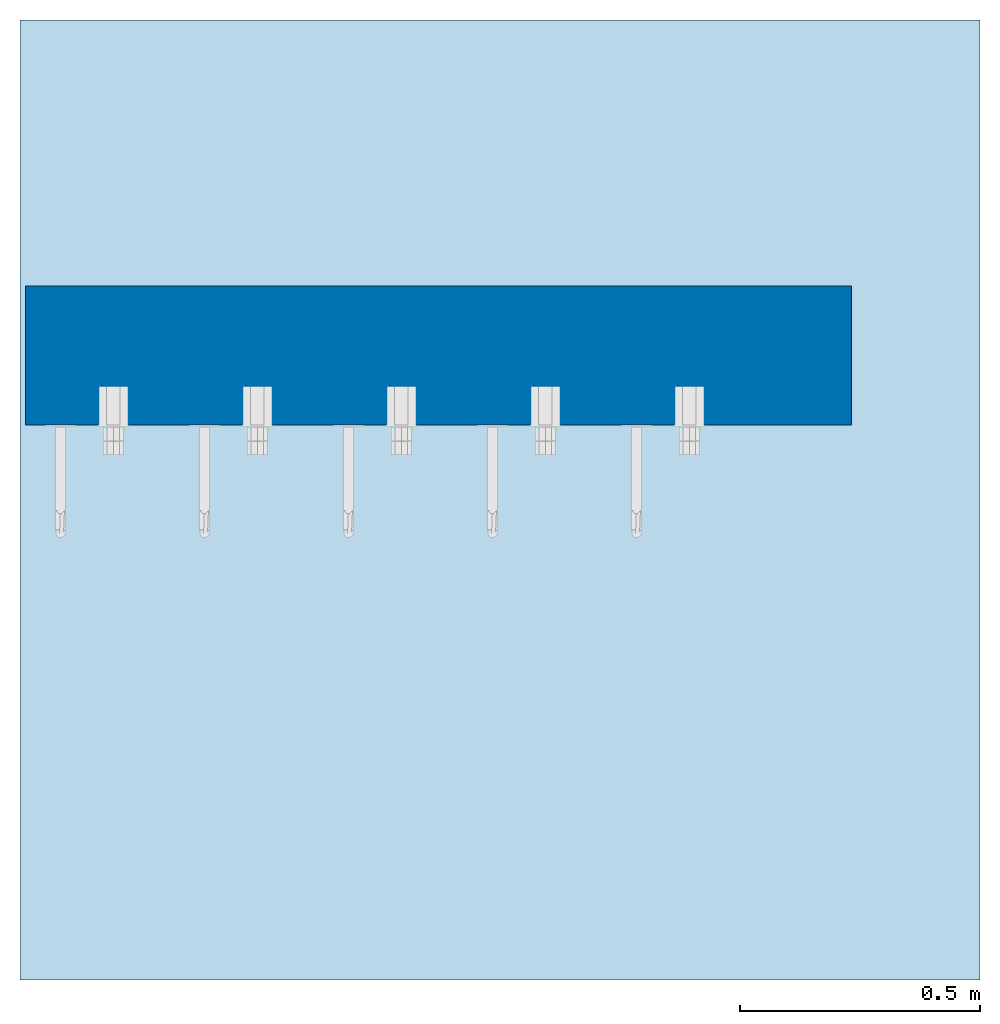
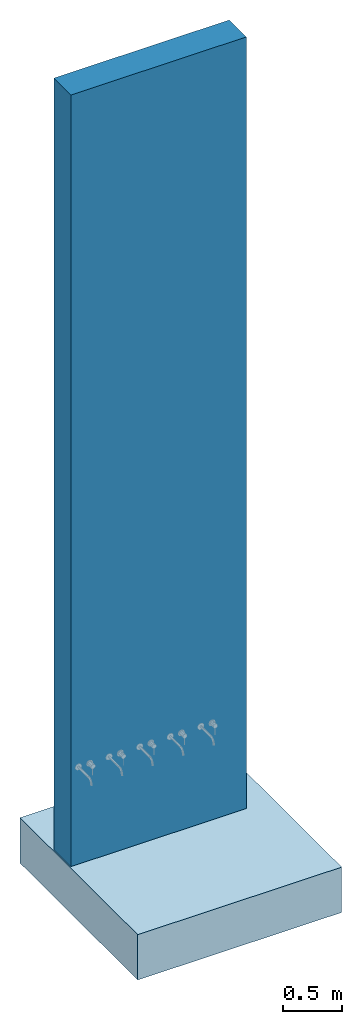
# One storey, incomplete: 1 slab, 1 wall.
"""IFC2X3 building model written with IfcOpenShell, lengths in millimetres."""

from ifc_helpers import new_model, entity, si_unit, converted_unit, derived_unit, direction, frame, frame_2d, origin, origin_2d_with_axis, place, context, subcontext, project, spatial, rectangle, extrude, material, layer, layer_set, layer_usage, type_object, element, save


model = new_model("IFC2X3")

# Units and contexts
model_context = context("Model", 3, precision=0.01, world=origin(), true_north=direction((6.12303176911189e-17, 1.0)))
body_context = subcontext(model_context, "Body", "Model", "MODEL_VIEW")
ifc_project = project(units=[si_unit("LENGTHUNIT", "METRE", prefix="MILLI"), si_unit("AREAUNIT", "SQUARE_METRE"), si_unit("VOLUMEUNIT", "CUBIC_METRE"), converted_unit("PLANEANGLEUNIT", "DEGREE", entity("IfcRatioMeasure", 0.0174532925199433), si_unit("PLANEANGLEUNIT", "RADIAN"), dimensions=[0, 0, 0, 0, 0, 0, 0]), si_unit("MASSUNIT", "GRAM", prefix="KILO"), derived_unit("MASSDENSITYUNIT", [(si_unit("MASSUNIT", "GRAM", prefix="KILO"), 1), (si_unit("LENGTHUNIT", "METRE"), -3)]), si_unit("TIMEUNIT", "SECOND"), si_unit("FREQUENCYUNIT", "HERTZ"), si_unit("THERMODYNAMICTEMPERATUREUNIT", "DEGREE_CELSIUS"), derived_unit("THERMALTRANSMITTANCEUNIT", [(si_unit("MASSUNIT", "GRAM", prefix="KILO"), 1), (si_unit("THERMODYNAMICTEMPERATUREUNIT", "KELVIN"), -1), (si_unit("TIMEUNIT", "SECOND"), -3)]), derived_unit("VOLUMETRICFLOWRATEUNIT", [(si_unit("LENGTHUNIT", "METRE"), 3), (si_unit("TIMEUNIT", "SECOND"), -1)]), si_unit("ELECTRICCURRENTUNIT", "AMPERE"), si_unit("ELECTRICVOLTAGEUNIT", "VOLT"), si_unit("POWERUNIT", "WATT"), si_unit("FORCEUNIT", "NEWTON", prefix="KILO"), si_unit("ILLUMINANCEUNIT", "LUX"), si_unit("LUMINOUSFLUXUNIT", "LUMEN"), si_unit("LUMINOUSINTENSITYUNIT", "CANDELA"), derived_unit("USERDEFINED", [(si_unit("MASSUNIT", "GRAM", prefix="KILO"), -1), (si_unit("LENGTHUNIT", "METRE"), -2), (si_unit("TIMEUNIT", "SECOND"), 3), (si_unit("LUMINOUSFLUXUNIT", "LUMEN"), 1)]), derived_unit("LINEARVELOCITYUNIT", [(si_unit("LENGTHUNIT", "METRE"), 1), (si_unit("TIMEUNIT", "SECOND"), -1)]), si_unit("PRESSUREUNIT", "PASCAL"), derived_unit("USERDEFINED", [(si_unit("LENGTHUNIT", "METRE"), -2), (si_unit("MASSUNIT", "GRAM", prefix="KILO"), 1), (si_unit("TIMEUNIT", "SECOND"), -2)])], contexts=[model_context])

# Site, building, storey
site_placement = place(None, origin())
site = spatial("IfcSite", under=ifc_project, at=site_placement, Name="Default", CompositionType="ELEMENT")
building_placement = place(site_placement, origin())
building = spatial("IfcBuilding", under=site, at=building_placement, Name="n/a", CompositionType="ELEMENT")
storey_placement = place(building_placement, origin())
storey = spatial("IfcBuildingStorey", under=building, at=storey_placement, Name="Level 0", CompositionType="ELEMENT", Elevation=0.0)

# Slab
ifc_material_1 = material(Name="Concrete, Sand/Cement Screed")
ifc_layer_1 = layer(ifc_material_1, 65.0)
ifc_material_2 = material(Name="Rigid insulation")
ifc_layer_2 = layer(ifc_material_2, 80.0)
ifc_material_3 = material(Name="Air")
ifc_layer_3 = layer(ifc_material_3, 150.0)
ifc_material_4 = material(Name="Concrete Masonry, Floor Block")
ifc_layer_4 = layer(ifc_material_4, 100.0)
ifc_material_5 = material(Name="Concrete, Precast")
ifc_layer_5 = layer(ifc_material_5, 75.0)
ifc_layer_set_1 = layer_set([ifc_layer_1, ifc_layer_2, ifc_layer_3, ifc_layer_4, ifc_layer_5], Name="Floor:Floor-Grnd-Susp_65Scr-80Ins-100Blk-75PC")
ifc_layer_usage_1 = layer_usage(ifc_layer_set_1, "AXIS3", "POSITIVE", 0.0)
slab_type = type_object("IfcSlabType", Name="Floor:Floor-Grnd-Susp_65Scr-80Ins-100Blk-75PC", PredefinedType="FLOOR", material=ifc_layer_set_1)
slab_placement = place(storey_placement, origin())
element("IfcSlab", 1, at=slab_placement, inside=storey, type_object=slab_type, material=ifc_layer_usage_1, Name="Floor:Floor-Grnd-Susp_65Scr-80Ins-100Blk-75PC", ObjectType="Floor:Floor-Grnd-Susp_65Scr-80Ins-100Blk-75PC", PredefinedType="FLOOR", context=body_context, shape_type="SweptSolid", body=[
    extrude(rectangle(XDim=2000.0, YDim=2000.0, at=origin_2d_with_axis()), frame((2617.89542022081, 511.02004687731, 0.0), z_axis=(0.0, 0.0, -1.0), x_axis=(0.0, 1.0, 0.0)), (0.0, 0.0, 1.0), 470.0),
])

# Wall
ifc_material_6 = material(Name="Brick, Common")
ifc_layer_6 = layer(ifc_material_6, 102.5)
ifc_material_7 = material(Name="Fiberglass Batt")
ifc_layer_7 = layer(ifc_material_7, 75.0)
ifc_material_8 = material(Name="Concrete Masonry Units _Low Density")
ifc_layer_8 = layer(ifc_material_8, 100.0)
ifc_material_9 = material(Name="Plaster")
ifc_layer_9 = layer(ifc_material_9, 12.5)
ifc_layer_set_2 = layer_set([ifc_layer_6, ifc_layer_7, ifc_layer_8, ifc_layer_9], Name="Basic Wall:Wall-Ext_102Bwk-75Ins-100LBlk-12P")
ifc_layer_usage_2 = layer_usage(ifc_layer_set_2, "AXIS2", "NEGATIVE", 145.0)
wall_type = type_object("IfcWallType", Name="Basic Wall:Wall-Ext_102Bwk-75Ins-100LBlk-12P", PredefinedType="STANDARD", material=ifc_layer_set_2)
wall_placement = place(storey_placement, frame((1629.84777565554, 812.175686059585, 0.0)))
element("IfcWallStandardCase", 2, at=wall_placement, inside=storey, type_object=wall_type, material=ifc_layer_usage_2, Name="Basic Wall:Wall-Ext_102Bwk-75Ins-100LBlk-12P", ObjectType="Basic Wall:Wall-Ext_102Bwk-75Ins-100LBlk-12P", context=body_context, shape_type="SweptSolid", body=[
    extrude(rectangle(XDim=1720.0, YDim=290.0, at=frame_2d((860.0, 2.8421709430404e-14), x_axis=(-1.0, 0.0))), origin(), (0.0, 0.0, 1.0), 8000.0),
])

save(model, "model.ifc")
